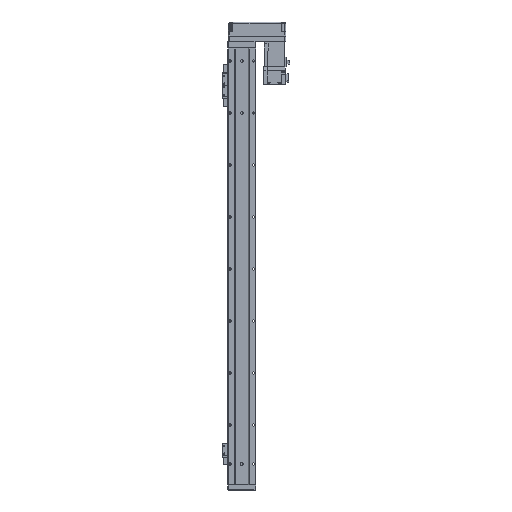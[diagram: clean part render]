
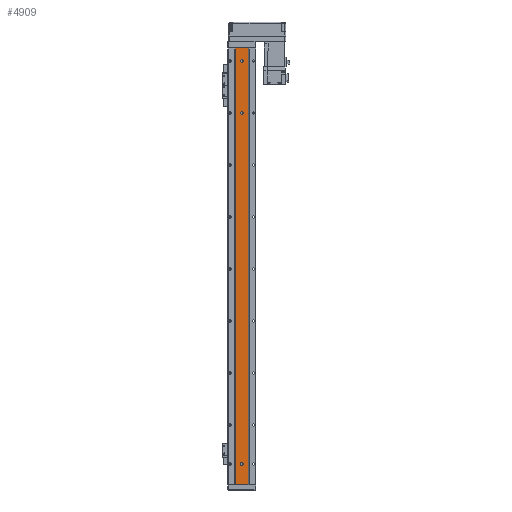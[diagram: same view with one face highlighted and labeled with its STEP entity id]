
A CAD part, front view. The second image highlights one B-rep face of the part: STEP entity #4909.
In plain terms, the highlighted planar face has unit normal (0, -1, 0).
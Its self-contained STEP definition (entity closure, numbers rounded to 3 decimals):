
#333 = VERTEX_POINT ( 'NONE', #8010 ) ;
#1935 = ORIENTED_EDGE ( 'NONE', *, *, #9879, .F. ) ;
#2053 = VERTEX_POINT ( 'NONE', #22629 ) ;
#2331 = LINE ( 'NONE', #33777, #32944 ) ;
#2348 = LINE ( 'NONE', #18475, #32964 ) ;
#2856 = ORIENTED_EDGE ( 'NONE', *, *, #4639, .F. ) ;
#2877 = AXIS2_PLACEMENT_3D ( 'NONE', #13141, #12626, #21562 ) ;
#3440 = EDGE_CURVE ( 'NONE', #23324, #7030, #28062, .T. ) ;
#3584 = CARTESIAN_POINT ( 'NONE',  ( -12.293, 1.5, 0. ) ) ;
#4079 = DIRECTION ( 'NONE',  ( 0., -1., 0. ) ) ;
#4325 = VERTEX_POINT ( 'NONE', #23209 ) ;
#4639 = EDGE_CURVE ( 'NONE', #4325, #11493, #2348, .T. ) ;
#4909 = ADVANCED_FACE ( 'NONE', ( #12050, #9281, #18023, #25938 ), #22646, .T. ) ;
#4976 = VECTOR ( 'NONE', #31586, 1000. ) ;
#5116 = LINE ( 'NONE', #17992, #27815 ) ;
#5326 = CARTESIAN_POINT ( 'NONE',  ( -12.293, 1.5, -840. ) ) ;
#5366 = CIRCLE ( 'NONE', #18118, 2.5 ) ;
#5435 = EDGE_CURVE ( 'NONE', #2053, #10222, #25385, .T. ) ;
#6025 = EDGE_CURVE ( 'NONE', #10771, #4325, #5366, .T. ) ;
#6372 = EDGE_CURVE ( 'NONE', #10222, #2053, #7189, .T. ) ;
#6931 = CARTESIAN_POINT ( 'NONE',  ( 0., 1.5, -25. ) ) ;
#7030 = VERTEX_POINT ( 'NONE', #22860 ) ;
#7114 = VERTEX_POINT ( 'NONE', #5326 ) ;
#7189 = CIRCLE ( 'NONE', #16886, 2.5 ) ;
#7700 = AXIS2_PLACEMENT_3D ( 'NONE', #14802, #35507, #17746 ) ;
#8010 = CARTESIAN_POINT ( 'NONE',  ( 12.293, 1.5, -840. ) ) ;
#8924 = AXIS2_PLACEMENT_3D ( 'NONE', #34544, #16784, #28574 ) ;
#9239 = ORIENTED_EDGE ( 'NONE', *, *, #6025, .F. ) ;
#9281 = FACE_BOUND ( 'NONE', #10422, .T. ) ;
#9349 = ORIENTED_EDGE ( 'NONE', *, *, #6372, .F. ) ;
#9879 = EDGE_CURVE ( 'NONE', #31240, #26432, #19813, .T. ) ;
#9908 = CARTESIAN_POINT ( 'NONE',  ( 12.293, 1.5, 0. ) ) ;
#10222 = VERTEX_POINT ( 'NONE', #23246 ) ;
#10422 = EDGE_LOOP ( 'NONE', ( #20478, #13724 ) ) ;
#10771 = VERTEX_POINT ( 'NONE', #26177 ) ;
#10829 = CARTESIAN_POINT ( 'NONE',  ( 12.293, 1.5, -840. ) ) ;
#10991 = ORIENTED_EDGE ( 'NONE', *, *, #5435, .F. ) ;
#11493 = VERTEX_POINT ( 'NONE', #30800 ) ;
#12050 = FACE_BOUND ( 'NONE', #33662, .T. ) ;
#12247 = EDGE_CURVE ( 'NONE', #7114, #31240, #5116, .T. ) ;
#12626 = DIRECTION ( 'NONE',  ( 0., -1., 0. ) ) ;
#13141 = CARTESIAN_POINT ( 'NONE',  ( 0., 1.5, -125. ) ) ;
#13278 = DIRECTION ( 'NONE',  ( 0., -1., 0. ) ) ;
#13724 = ORIENTED_EDGE ( 'NONE', *, *, #3440, .F. ) ;
#14567 = DIRECTION ( 'NONE',  ( 0., 0., -1. ) ) ;
#14802 = CARTESIAN_POINT ( 'NONE',  ( 0., 1.5, -25. ) ) ;
#15025 = AXIS2_PLACEMENT_3D ( 'NONE', #31183, #13278, #34013 ) ;
#15447 = CIRCLE ( 'NONE', #33621, 2.5 ) ;
#15756 = ORIENTED_EDGE ( 'NONE', *, *, #35496, .T. ) ;
#16784 = DIRECTION ( 'NONE',  ( 0., -1., 0. ) ) ;
#16886 = AXIS2_PLACEMENT_3D ( 'NONE', #6931, #4079, #24809 ) ;
#17746 = DIRECTION ( 'NONE',  ( 1., 0., 0. ) ) ;
#17992 = CARTESIAN_POINT ( 'NONE',  ( -12.293, 1.5, -840. ) ) ;
#18023 = FACE_BOUND ( 'NONE', #19953, .T. ) ;
#18072 = CARTESIAN_POINT ( 'NONE',  ( -2.5, 1.5, -125. ) ) ;
#18118 = AXIS2_PLACEMENT_3D ( 'NONE', #26801, #26430, #29774 ) ;
#18475 = CARTESIAN_POINT ( 'NONE',  ( 2.5, 1.5, -840. ) ) ;
#19484 = EDGE_CURVE ( 'NONE', #11493, #22962, #26113, .T. ) ;
#19813 = LINE ( 'NONE', #9908, #33717 ) ;
#19953 = EDGE_LOOP ( 'NONE', ( #9349, #10991 ) ) ;
#20478 = ORIENTED_EDGE ( 'NONE', *, *, #33267, .F. ) ;
#20558 = CARTESIAN_POINT ( 'NONE',  ( 12.293, 1.5, 0. ) ) ;
#20749 = LINE ( 'NONE', #10829, #4976 ) ;
#21562 = DIRECTION ( 'NONE',  ( 1., 0., 0. ) ) ;
#22629 = CARTESIAN_POINT ( 'NONE',  ( -2.5, 1.5, -25. ) ) ;
#22646 = PLANE ( 'NONE',  #8924 ) ;
#22860 = CARTESIAN_POINT ( 'NONE',  ( 2.5, 1.5, -125. ) ) ;
#22962 = VERTEX_POINT ( 'NONE', #37254 ) ;
#23209 = CARTESIAN_POINT ( 'NONE',  ( 2.5, 1.5, -801. ) ) ;
#23246 = CARTESIAN_POINT ( 'NONE',  ( 2.5, 1.5, -25. ) ) ;
#23324 = VERTEX_POINT ( 'NONE', #18072 ) ;
#23355 = DIRECTION ( 'NONE',  ( 0., -1., 0. ) ) ;
#23474 = CARTESIAN_POINT ( 'NONE',  ( 0., 1.5, -125. ) ) ;
#24809 = DIRECTION ( 'NONE',  ( 1., 0., 0. ) ) ;
#25385 = CIRCLE ( 'NONE', #7700, 2.5 ) ;
#25938 = FACE_OUTER_BOUND ( 'NONE', #36706, .T. ) ;
#26076 = ORIENTED_EDGE ( 'NONE', *, *, #19484, .F. ) ;
#26113 = CIRCLE ( 'NONE', #15025, 2.5 ) ;
#26177 = CARTESIAN_POINT ( 'NONE',  ( -2.5, 1.5, -801. ) ) ;
#26430 = DIRECTION ( 'NONE',  ( 0., -1., 0. ) ) ;
#26432 = VERTEX_POINT ( 'NONE', #20558 ) ;
#26502 = CARTESIAN_POINT ( 'NONE',  ( -2.5, 1.5, -840. ) ) ;
#26590 = DIRECTION ( 'NONE',  ( 1., 0., 0. ) ) ;
#26801 = CARTESIAN_POINT ( 'NONE',  ( 0., 1.5, -801. ) ) ;
#27815 = VECTOR ( 'NONE', #29425, 1000. ) ;
#28062 = CIRCLE ( 'NONE', #2877, 2.5 ) ;
#28574 = DIRECTION ( 'NONE',  ( 1., 0., 0. ) ) ;
#29425 = DIRECTION ( 'NONE',  ( 0., 0., 1. ) ) ;
#29774 = DIRECTION ( 'NONE',  ( 1., 0., 0. ) ) ;
#29798 = EDGE_CURVE ( 'NONE', #22962, #10771, #38134, .T. ) ;
#30447 = ORIENTED_EDGE ( 'NONE', *, *, #31301, .T. ) ;
#30565 = DIRECTION ( 'NONE',  ( 0., 0., 1. ) ) ;
#30800 = CARTESIAN_POINT ( 'NONE',  ( 2.5, 1.5, -799. ) ) ;
#31178 = DIRECTION ( 'NONE',  ( 1., 0., 0. ) ) ;
#31183 = CARTESIAN_POINT ( 'NONE',  ( 0., 1.5, -799. ) ) ;
#31240 = VERTEX_POINT ( 'NONE', #3584 ) ;
#31247 = VECTOR ( 'NONE', #14567, 1000. ) ;
#31301 = EDGE_CURVE ( 'NONE', #333, #26432, #2331, .T. ) ;
#31373 = ORIENTED_EDGE ( 'NONE', *, *, #12247, .F. ) ;
#31586 = DIRECTION ( 'NONE',  ( 1., 0., 0. ) ) ;
#32944 = VECTOR ( 'NONE', #36466, 1000. ) ;
#32964 = VECTOR ( 'NONE', #30565, 1000. ) ;
#33267 = EDGE_CURVE ( 'NONE', #7030, #23324, #15447, .T. ) ;
#33621 = AXIS2_PLACEMENT_3D ( 'NONE', #23474, #23355, #26590 ) ;
#33662 = EDGE_LOOP ( 'NONE', ( #9239, #35289, #26076, #2856 ) ) ;
#33717 = VECTOR ( 'NONE', #31178, 1000. ) ;
#33777 = CARTESIAN_POINT ( 'NONE',  ( 12.293, 1.5, -840. ) ) ;
#34013 = DIRECTION ( 'NONE',  ( 1., 0., 0. ) ) ;
#34544 = CARTESIAN_POINT ( 'NONE',  ( 12.293, 1.5, -840. ) ) ;
#35289 = ORIENTED_EDGE ( 'NONE', *, *, #29798, .F. ) ;
#35496 = EDGE_CURVE ( 'NONE', #7114, #333, #20749, .T. ) ;
#35507 = DIRECTION ( 'NONE',  ( 0., -1., 0. ) ) ;
#36466 = DIRECTION ( 'NONE',  ( 0., 0., 1. ) ) ;
#36706 = EDGE_LOOP ( 'NONE', ( #1935, #31373, #15756, #30447 ) ) ;
#37254 = CARTESIAN_POINT ( 'NONE',  ( -2.5, 1.5, -799. ) ) ;
#38134 = LINE ( 'NONE', #26502, #31247 ) ;
